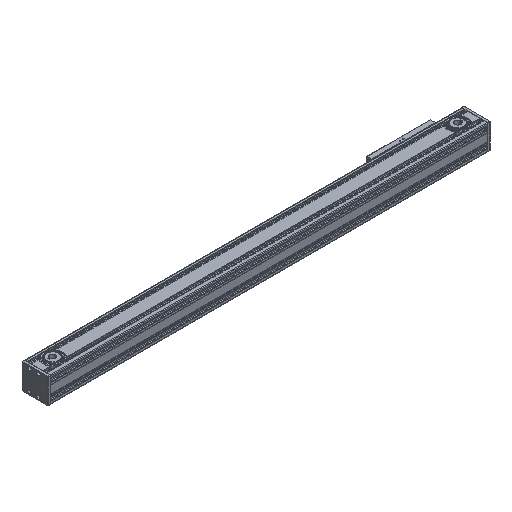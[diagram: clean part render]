
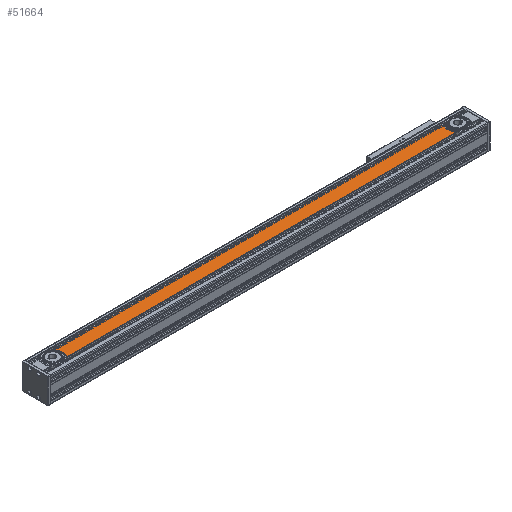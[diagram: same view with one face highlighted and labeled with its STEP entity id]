
A CAD part, isometric view. The second image highlights one B-rep face of the part: STEP entity #51664.
In plain terms, the highlighted planar face has unit normal (0, 0, 1).
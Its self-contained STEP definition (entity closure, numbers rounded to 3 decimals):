
#3390 = PLANE ( 'NONE',  #92161 ) ;
#3431 = CARTESIAN_POINT ( 'NONE',  ( -164.672, 62.821, 83.366 ) ) ;
#5808 = ORIENTED_EDGE ( 'NONE', *, *, #89863, .T. ) ;
#10264 = ORIENTED_EDGE ( 'NONE', *, *, #32665, .T. ) ;
#14369 = ORIENTED_EDGE ( 'NONE', *, *, #122303, .T. ) ;
#16704 = CIRCLE ( 'NONE', #115735, 31. ) ;
#18901 = EDGE_CURVE ( 'NONE', #40111, #103944, #16704, .T. ) ;
#20573 = DIRECTION ( 'NONE',  ( 0., 0., -1. ) ) ;
#21218 = DIRECTION ( 'NONE',  ( -1., 0., 0. ) ) ;
#28799 = CARTESIAN_POINT ( 'NONE',  ( 1131.899, 62.821, 83.366 ) ) ;
#29289 = AXIS2_PLACEMENT_3D ( 'NONE', #40461, #20573, #21218 ) ;
#32665 = EDGE_CURVE ( 'NONE', #106223, #103944, #63502, .T. ) ;
#40111 = VERTEX_POINT ( 'NONE', #105769 ) ;
#40461 = CARTESIAN_POINT ( 'NONE',  ( -114.672, 83.121, 83.366 ) ) ;
#46482 = LINE ( 'NONE', #86566, #108507 ) ;
#50629 = DIRECTION ( 'NONE',  ( 1., 0., 0. ) ) ;
#51664 = ADVANCED_FACE ( 'NONE', ( #53633 ), #3390, .T. ) ;
#53633 = FACE_OUTER_BOUND ( 'NONE', #72149, .T. ) ;
#58112 = DIRECTION ( 'NONE',  ( 0., 0., 1. ) ) ;
#58559 = CARTESIAN_POINT ( 'NONE',  ( 1155.328, 83.121, 83.366 ) ) ;
#63502 = LINE ( 'NONE', #3431, #113004 ) ;
#64155 = DIRECTION ( 'NONE',  ( 1., 0., 0. ) ) ;
#68538 = VERTEX_POINT ( 'NONE', #90052 ) ;
#72149 = EDGE_LOOP ( 'NONE', ( #10264, #86923, #14369, #5808 ) ) ;
#76707 = DIRECTION ( 'NONE',  ( -1., 0., 0. ) ) ;
#86111 = CIRCLE ( 'NONE', #29289, 31. ) ;
#86566 = CARTESIAN_POINT ( 'NONE',  ( -164.672, 103.421, 83.366 ) ) ;
#86923 = ORIENTED_EDGE ( 'NONE', *, *, #18901, .F. ) ;
#89863 = EDGE_CURVE ( 'NONE', #68538, #106223, #86111, .T. ) ;
#90052 = CARTESIAN_POINT ( 'NONE',  ( -91.244, 103.421, 83.366 ) ) ;
#92161 = AXIS2_PLACEMENT_3D ( 'NONE', #108814, #58112, #98205 ) ;
#98205 = DIRECTION ( 'NONE',  ( 1., 0., 0. ) ) ;
#100628 = DIRECTION ( 'NONE',  ( 0., 0., 1. ) ) ;
#102692 = CARTESIAN_POINT ( 'NONE',  ( -91.244, 62.821, 83.366 ) ) ;
#103944 = VERTEX_POINT ( 'NONE', #28799 ) ;
#105769 = CARTESIAN_POINT ( 'NONE',  ( 1131.899, 103.421, 83.366 ) ) ;
#106223 = VERTEX_POINT ( 'NONE', #102692 ) ;
#108507 = VECTOR ( 'NONE', #76707, 1000. ) ;
#108814 = CARTESIAN_POINT ( 'NONE',  ( -164.672, 119.121, 83.366 ) ) ;
#113004 = VECTOR ( 'NONE', #64155, 1000. ) ;
#115735 = AXIS2_PLACEMENT_3D ( 'NONE', #58559, #100628, #50629 ) ;
#122303 = EDGE_CURVE ( 'NONE', #40111, #68538, #46482, .T. ) ;
